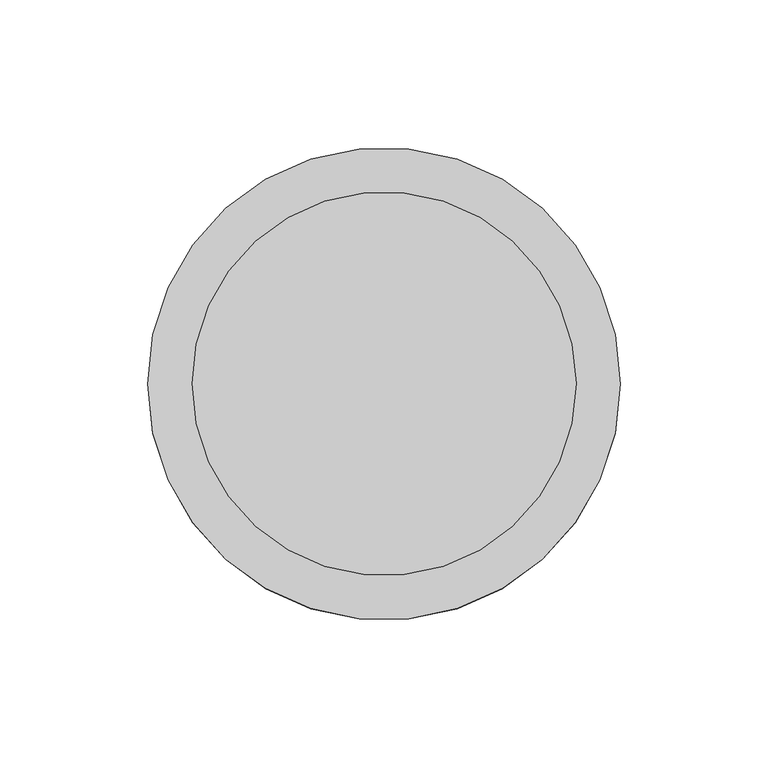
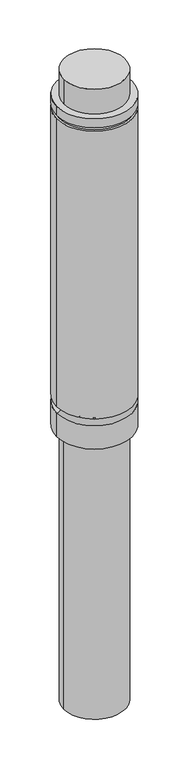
"""IFC4 building model written with IfcOpenShell, lengths in millimetres: air terminal geometry, RSFen_AIR_WPB_flue gas rooftop terminal_M&G : PP Black, ø130."""

from ifc_helpers import new_model, si_unit, point, frame, origin, origin_with_axes, origin_2d, place, context, project, spatial, circle_curve, ellipse_curve, trimmed, segment, composite_curve, outline, extrude, source, transform, mapped, element, save
from ifc_brep_helpers import plane_surface, cylinder_surface, revolved_surface, advanced_brep


def air_terminal_94623e8e(model_context):
    return source(origin(), model_context, "Body", "SolidModel", [
        advanced_brep(
        [(-80.0, 0.0, 741.0), (80.0, 0.0, 741.0), (-80.0, 0.0, 0.0), (80.0, 0.0, 0.0), (-80.0, 0.0, 721.0), (80.0, 0.0, 721.0), (80.0, 0.0, 52.5), (-80.0, 0.0, 52.5), (80.0, 0.0, 713.0), (-80.0, 0.0, 713.0), (-80.0, 0.0, 67.5), (80.0, 0.0, 67.5), (75.0, 0.0, 721.0), (75.0, 0.0, 713.0), (-75.0, 0.0, 713.0), (-75.0, 0.0, 721.0)],
        [
            (0, 1, circle_curve(frame((0.0, 0.0, 741.0), z_axis=(0.0, 0.0, 1.0), x_axis=(1.0, 0.0, 0.0)), 80.0)),
            (1, 0, circle_curve(frame((0.0, 0.0, 741.0), z_axis=(0.0, 0.0, 1.0), x_axis=(1.0, 0.0, 0.0)), 80.0)),
            (2, 3, circle_curve(frame((0.0, 0.0, 0.0), z_axis=(0.0, 0.0, -1.0), x_axis=(1.0, 0.0, 0.0)), 80.0)),
            (3, 2, circle_curve(frame((0.0, 0.0, 0.0), z_axis=(0.0, 0.0, -1.0), x_axis=(1.0, 0.0, 0.0)), 80.0)),
            (0, 4),
            (4, 5, circle_curve(frame((0.0, 0.0, 721.0), z_axis=(0.0, 0.0, 1.0), x_axis=(1.0, 0.0, 0.0)), 80.0)),
            (5, 1),
            (3, 6),
            (6, 7, circle_curve(frame((0.0, 0.0, 52.5), z_axis=(0.0, 0.0, -1.0), x_axis=(1.0, 0.0, 0.0)), 80.0)),
            (7, 2),
            (8, 9, circle_curve(frame((0.0, 0.0, 713.0), z_axis=(0.0, 0.0, -1.0), x_axis=(1.0, 0.0, 0.0)), 80.0)),
            (9, 10),
            (10, 11, circle_curve(frame((0.0, 0.0, 67.5), z_axis=(0.0, 0.0, 1.0), x_axis=(1.0, 0.0, 0.0)), 80.0)),
            (11, 8),
            (5, 4, circle_curve(frame((0.0, 0.0, 721.0), z_axis=(0.0, 0.0, 1.0), x_axis=(1.0, 0.0, 0.0)), 80.0)),
            (7, 6, circle_curve(frame((0.0, 0.0, 52.5), z_axis=(0.0, 0.0, -1.0), x_axis=(1.0, 0.0, 0.0)), 80.0)),
            (9, 8, circle_curve(frame((0.0, 0.0, 713.0), z_axis=(0.0, 0.0, -1.0), x_axis=(1.0, 0.0, 0.0)), 80.0)),
            (11, 10, circle_curve(frame((0.0, 0.0, 67.5), z_axis=(0.0, 0.0, 1.0), x_axis=(1.0, 0.0, 0.0)), 80.0)),
            (12, 13),
            (13, 14, circle_curve(frame((0.0, 0.0, 713.0), z_axis=(0.0, 0.0, 1.0), x_axis=(-1.0, 0.0, 0.0)), 75.0)),
            (14, 15),
            (15, 12, circle_curve(frame((0.0, 0.0, 721.0), z_axis=(0.0, 0.0, -1.0), x_axis=(-1.0, 0.0, 0.0)), 75.0)),
            (15, 12, circle_curve(frame((0.0, 0.0, 721.0), z_axis=(0.0, 0.0, 1.0), x_axis=(1.0, 0.0, 0.0)), 75.0)),
            (13, 14, circle_curve(frame((0.0, 0.0, 713.0), z_axis=(0.0, 0.0, -1.0), x_axis=(1.0, 0.0, 0.0)), 75.0)),
            (7, 10, circle_curve(frame((-80.0, 0.0, 60.0), z_axis=(0.0, -1.0, 0.0), x_axis=(-1.0, 0.0, 0.0)), 7.5)),
            (11, 6, circle_curve(frame((80.0, 0.0, 60.0), z_axis=(0.0, -1.0, 0.0), x_axis=(1.0, 0.0, 0.0)), 7.5)),
        ],
        [
            plane_surface(frame((80.0, 0.0, 741.0), z_axis=(0.0, 0.0, 1.0), x_axis=(0.0, 1.0, 0.0))),
            plane_surface(frame((80.0, 0.0, 0.0), z_axis=(0.0, 0.0, -1.0), x_axis=(0.0, -1.0, 0.0))),
            cylinder_surface(origin_with_axes(), 80.0),
            cylinder_surface(frame((0.0, 0.0, 741.0), z_axis=(0.0, 0.0, -1.0), x_axis=(-1.0, 0.0, 0.0)), 75.0),
            plane_surface(frame((0.0, 0.0, 721.0), z_axis=(0.0, 0.0, -1.0), x_axis=(1.0, 0.0, 0.0))),
            plane_surface(frame((0.0, 0.0, 713.0), z_axis=(0.0, 0.0, 1.0), x_axis=(1.0, 0.0, 0.0))),
            cylinder_surface(frame((0.0, 0.0, 741.0), z_axis=(0.0, 0.0, -1.0), x_axis=(1.0, 0.0, 0.0)), 75.0),
            revolved_surface(trimmed(ellipse_curve(frame((80.0, 0.0, 60.0), z_axis=(0.0, 1.0, 0.0), x_axis=(1.0, 0.0, 0.0)), 7.5, 7.5), [point((80.0, 0.0, 52.5))], [point((80.0, 0.0, 67.5))], True, "CARTESIAN"), (0.0, 0.0, 0.0), (0.0, 0.0, 1.0)),
            revolved_surface(trimmed(ellipse_curve(frame((-80.0, 0.0, 60.0), z_axis=(0.0, -1.0, 0.0), x_axis=(-1.0, 0.0, 0.0)), 7.5, 7.5), [point((-80.0, 0.0, 52.5))], [point((-80.0, 0.0, 67.5))], True, "CARTESIAN"), (0.0, 0.0, 0.0), (0.0, 0.0, 1.0)),
        ],
        [
            (0, [[1, 2]]),
            (1, [[3, 4]]),
            (2, [[-1, 5, 6, 7]]),
            (2, [[-4, 8, 9, 10]]),
            (2, [[11, 12, 13, 14]]),
            (2, [[-2, -7, 15, -5]]),
            (2, [[-3, -10, 16, -8]]),
            (2, [[17, -14, 18, -12]]),
            (3, [[19, 20, 21, 22]]),
            (4, [[-6, -15], [-22, 23]]),
            (5, [[-11, -17], [-20, 24]]),
            (6, [[-19, -23, -21, -24]]),
            (7, [[25, -18, 26, -16]]),
            (8, [[-25, -9, -26, -13]]),
        ],
    ),
        extrude(outline(composite_curve([segment(trimmed(circle_curve(origin_2d(), 65.0), [point((65.0, 0.0))], [point((-65.0, 0.0))], False, "CARTESIAN"), True, "CONTINUOUS"), segment(trimmed(circle_curve(origin_2d(), 65.0), [point((-65.0, 0.0))], [point((65.0, 0.0))], False, "CARTESIAN"), True, "CONTINUOUS")], self_intersect=False)), frame((0.0, 0.0, 741.0), z_axis=(0.0, 0.0, 1.0), x_axis=(1.0, 0.0, 0.0)), (0.0, 0.0, 1.0), 56.0),
        extrude(outline(composite_curve([segment(trimmed(circle_curve(origin_2d(), 65.0), [point((-65.0, 0.0))], [point((65.0, 0.0))], False, "CARTESIAN"), True, "CONTINUOUS"), segment(trimmed(circle_curve(origin_2d(), 65.0), [point((65.0, 0.0))], [point((-65.0, 0.0))], False, "CARTESIAN"), True, "CONTINUOUS")], self_intersect=False)), frame((0.0, 0.0, -617.1901538), z_axis=(0.0, 0.0, 1.0), x_axis=(1.0, 0.0, 0.0)), (0.0, 0.0, 1.0), 617.1901538),
    ])


if __name__ == "__main__":
    model = new_model("IFC4")
    model_context = context("Model", 3, world=origin())
    ifc_project = project(units=[si_unit("LENGTHUNIT", "METRE", prefix="MILLI")], contexts=[model_context])
    site = spatial("IfcSite", under=ifc_project)
    building = spatial("IfcBuilding", under=site)
    placement = place(None, origin())
    air_terminal_shape = air_terminal_94623e8e(model_context)
    element("IfcAirTerminal", 1, ObjectType="RSFen_AIR_WPB_flue gas rooftop terminal_M&G : PP Black, ø130", at=placement, inside=building, context=model_context, shape_type="MappedRepresentation", body=[
        mapped(air_terminal_shape, transform((0.0, 0.0, 0.0), x_axis=(1.0, 0.0, 0.0), y_axis=(0.0, 1.0, 0.0), z_axis=(0.0, 0.0, 1.0))),
    ])
    save(model, "model.ifc")
